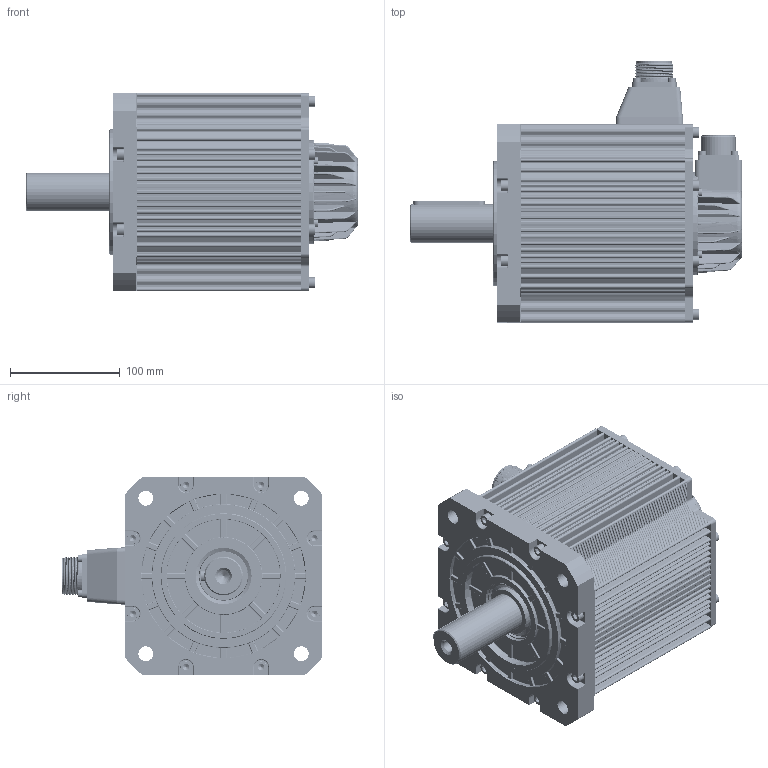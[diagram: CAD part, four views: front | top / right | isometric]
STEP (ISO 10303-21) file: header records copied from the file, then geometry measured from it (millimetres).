
FILE_DESCRIPTION((''),'2;1');
FILE_NAME('11101-01230_ASM','2024-11-14T11:01:57',('0108628'),(''),'CREO PARAMETRIC BY PTC INC, 2019080','CREO PARAMETRIC BY PTC INC, 2019080','');
FILE_SCHEMA(('CONFIG_CONTROL_DESIGN'));
Products named in the file (32): 83040196_AF0; 6206_AF0; 80100282_AF0; JB6695-161_AF0; 12111-00734_AF0_ASM; 80040352_AF0; 5X8L0; 12112-00967_AF0_ASM; YD32-180-TY; YD32-MD; YD32-MDS; DONGLI-HC-5015; YD32-4_ASM; 50030-00180_AF0; JB6695-161_AF1; GBT7R1-6X25; 58X45X7L00; QDG_AF0_ASM; 87800001_AF0; M4X12_AF0; M4X12_AF1; M4X12_AF2; M4X12_AF3; M4X6; DIN912-M3X5-8_8_AF0; DIN912-M3X5-8_8_AF1; 10X8X65L; 86870277_AF0; XINHAO-HC-5015; DIN912-M4X40-8_8; DIN912-M4X12-8_8; 11101-01230_ASM
Assembly tree (53 placements, depth 3):
  11101-01230_ASM
    12111-00734_AF0_ASM
      83040196_AF0
      6206_AF0
      80100282_AF0
      JB6695-161_AF0
    12112-00967_AF0_ASM
      80040352_AF0
      5X8L0
    YD32-4_ASM
      YD32-180-TY
      YD32-MD
      YD32-MDS
      DONGLI-HC-5015
    QDG_AF0_ASM
      50030-00180_AF0
      JB6695-161_AF1
      GBT7R1-6X25  x8
      58X45X7L00
    87800001_AF0
    M4X12_AF0
    M4X12_AF1
    M4X12_AF2
    M4X12_AF3
    M4X6
    GBT7R1-6X25  x8
    DIN912-M3X5-8_8_AF0
    DIN912-M3X5-8_8_AF1
    10X8X65L
    86870277_AF0
    XINHAO-HC-5015
    DIN912-M4X40-8_8  x4
    DIN912-M4X12-8_8  x4
    DONGLI-HC-5015
Bounding box: 302 x 237.4 x 180 mm (x, y, z)
Volume: 1710976.1 mm3; surface area: 677451 mm2
Topology: 48 solids, 110 shells, 7676 faces, 20125 edges, 12826 vertices
Faces by surface type: plane 3067, cylinder 2218, extrusion 840, cone 502, bspline 483, torus 404, sphere 162
Entity records: 258905 total; most frequent: CARTESIAN_POINT 110905, ORIENTED_EDGE 32050, DIRECTION 28573, EDGE_CURVE 16102, VERTEX_POINT 10352, AXIS2_PLACEMENT_3D 9921, VECTOR 8731, LINE 7999
